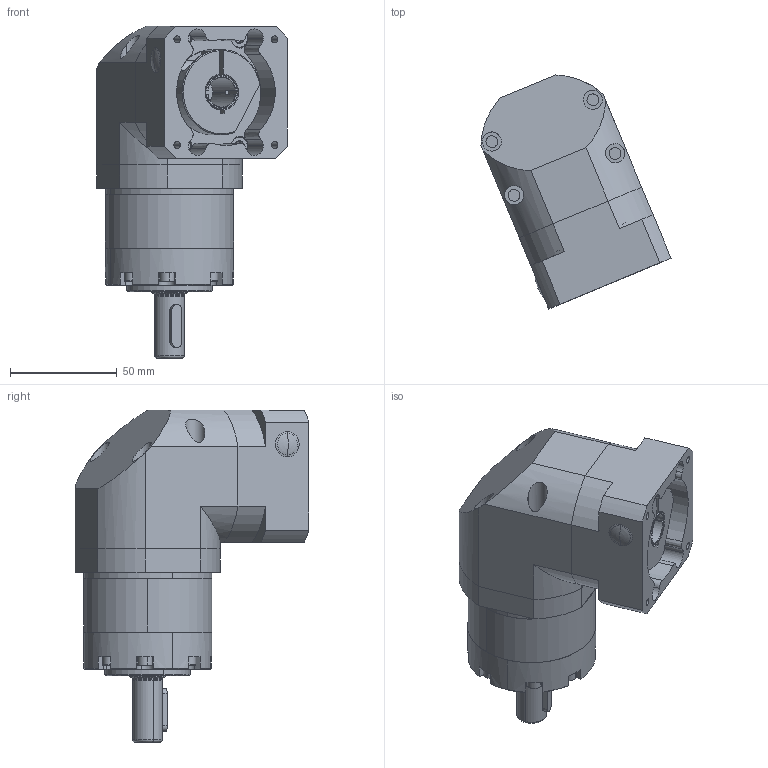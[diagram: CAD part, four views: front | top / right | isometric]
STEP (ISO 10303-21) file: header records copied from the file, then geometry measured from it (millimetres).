
FILE_DESCRIPTION (( 'STEP AP203' ), '1' );
FILE_NAME ('LSER60-(L1)-S2-P2-5070M4.STEP', '2024-11-14T09:22:34', ( '微软用户' ), ( '微软中国' ), 'SwSTEP 2.0', 'SolidWorks 2022', '' );
FILE_SCHEMA (( 'CONFIG_CONTROL_DESIGN' ));
Length unit declared in the file: millimetre
Products named in the file (1): LSER60-(L1)-S2-P2-5070M4
Bounding box: 89.05 x 109.6 x 155.5 mm (x, y, z)
Volume: 455416.5 mm3; surface area: 87418.8 mm2
Topology: 12 solids, 12 shells, 589 faces, 1388 edges, 828 vertices
Faces by surface type: plane 259, cylinder 166, cone 132, torus 16, bspline 16
Entity records: 18562 total; most frequent: CARTESIAN_POINT 5209, DIRECTION 2837, ORIENTED_EDGE 2688, EDGE_CURVE 1344, AXIS2_PLACEMENT_3D 1120, VERTEX_POINT 828, EDGE_LOOP 662, VECTOR 597
